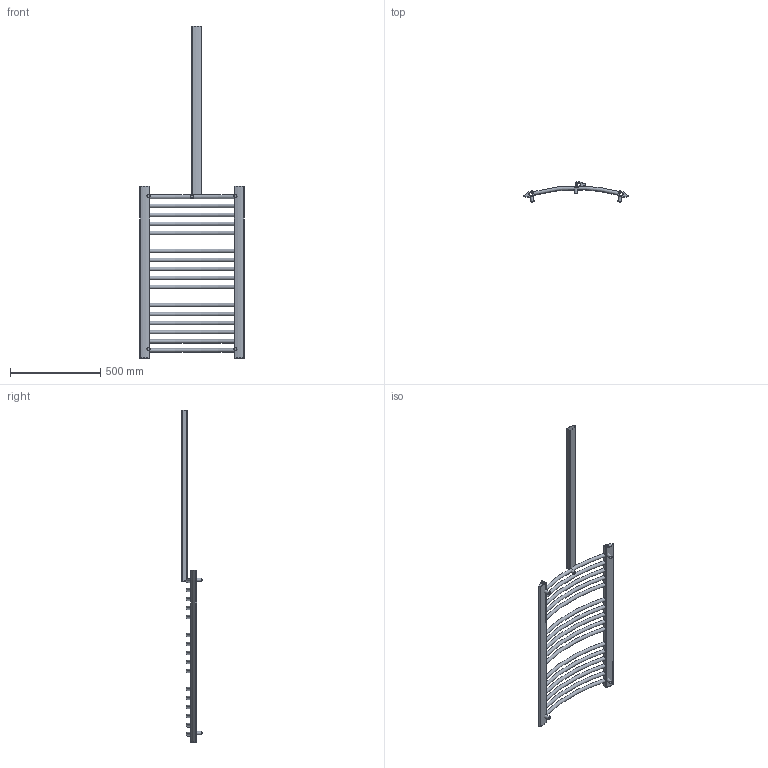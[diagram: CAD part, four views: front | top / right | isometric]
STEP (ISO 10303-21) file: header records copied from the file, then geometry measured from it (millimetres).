
FILE_DESCRIPTION( ( 'Unknown' ), '1' );
FILE_NAME( 'D:/RYSUNKI/RYSUNKI SOLID/SEJWAL/NOWE/2021/JAMAJKA/JAMAJKA.stp', 'Unknown', ( 'Unknown' ), ( 'Unknown' ), 'XStep 1.0', 'Unknown', ' ' );
FILE_SCHEMA( ( 'automotive_design' ) );
Length unit declared in the file: millimetre
Products named in the file (5): Assem1; profil-rurka; Profil_glowny_praw; Dekiel_G_1_2; MOCOWANIE
Bounding box: 579.6 x 111.2 x 1839 mm (x, y, z)
Volume: 3059322.8 mm3; surface area: 1353798.6 mm2
Topology: 30 solids, 30 shells, 178 faces, 334 edges, 221 vertices
Faces by surface type: plane 76, cylinder 75, torus 27
Full cylindrical faces by diameter (mm): 15 x5, 18 x5, 18.631 x5, 20 x5
Entity records: 1250 total; most frequent: DIRECTION 230, CARTESIAN_POINT 175, ORIENTED_EDGE 132, AXIS2_PLACEMENT_3D 103, EDGE_CURVE 66, EDGE_LOOP 48, VERTEX_POINT 48, CIRCLE 42
